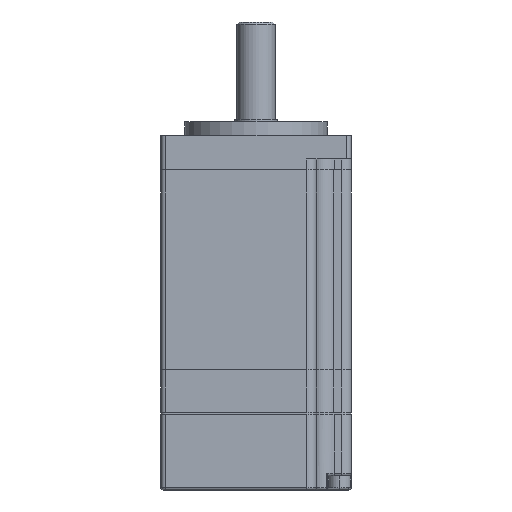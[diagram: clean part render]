
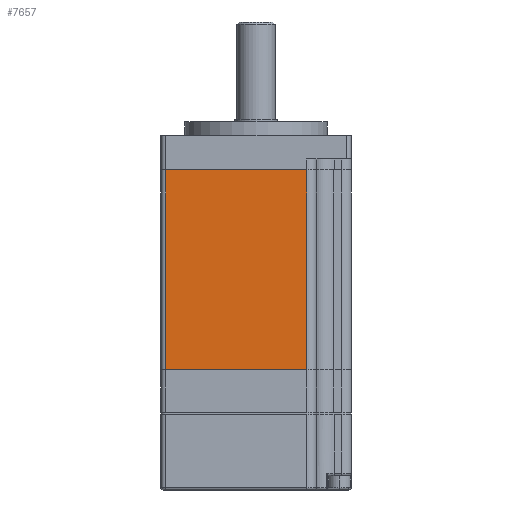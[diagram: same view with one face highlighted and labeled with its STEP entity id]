
A CAD part, front view. The second image highlights one B-rep face of the part: STEP entity #7657.
In plain terms, the highlighted planar face has unit normal (0, -1, 0).
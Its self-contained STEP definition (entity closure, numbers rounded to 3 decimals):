
#202 = LINE ( 'NONE', #4215, #10132 ) ;
#895 = CARTESIAN_POINT ( 'NONE',  ( -20., -20., 21. ) ) ;
#1635 = LINE ( 'NONE', #21537, #18096 ) ;
#2354 = LINE ( 'NONE', #3942, #8574 ) ;
#2664 = EDGE_CURVE ( 'NONE', #20545, #19498, #1635, .T. ) ;
#3280 = CARTESIAN_POINT ( 'NONE',  ( -19., -20., 21. ) ) ;
#3942 = CARTESIAN_POINT ( 'NONE',  ( 10.7, -20., -23. ) ) ;
#4186 = PLANE ( 'NONE',  #12001 ) ;
#4215 = CARTESIAN_POINT ( 'NONE',  ( -20., -20., -21. ) ) ;
#5296 = CARTESIAN_POINT ( 'NONE',  ( 10.7, -20., 21. ) ) ;
#5968 = ORIENTED_EDGE ( 'NONE', *, *, #13455, .F. ) ;
#6285 = DIRECTION ( 'NONE',  ( 0., -1., 0. ) ) ;
#7426 = EDGE_CURVE ( 'NONE', #10420, #19498, #202, .T. ) ;
#7657 = ADVANCED_FACE ( 'NONE', ( #21629 ), #4186, .T. ) ;
#7740 = DIRECTION ( 'NONE',  ( 0., 0., -1. ) ) ;
#8519 = CARTESIAN_POINT ( 'NONE',  ( -20., -20., -23. ) ) ;
#8574 = VECTOR ( 'NONE', #23677, 1000. ) ;
#8616 = VECTOR ( 'NONE', #19026, 1000. ) ;
#8846 = CARTESIAN_POINT ( 'NONE',  ( -19., -20., -21. ) ) ;
#10132 = VECTOR ( 'NONE', #16033, 1000. ) ;
#10420 = VERTEX_POINT ( 'NONE', #23111 ) ;
#11842 = VERTEX_POINT ( 'NONE', #5296 ) ;
#12001 = AXIS2_PLACEMENT_3D ( 'NONE', #8519, #6285, #16188 ) ;
#12205 = ORIENTED_EDGE ( 'NONE', *, *, #2664, .T. ) ;
#13455 = EDGE_CURVE ( 'NONE', #20545, #11842, #15777, .T. ) ;
#14421 = EDGE_CURVE ( 'NONE', #10420, #11842, #2354, .T. ) ;
#15009 = ORIENTED_EDGE ( 'NONE', *, *, #14421, .T. ) ;
#15777 = LINE ( 'NONE', #895, #8616 ) ;
#16033 = DIRECTION ( 'NONE',  ( -1., 0., 0. ) ) ;
#16188 = DIRECTION ( 'NONE',  ( 0., 0., -1. ) ) ;
#18096 = VECTOR ( 'NONE', #7740, 1000. ) ;
#19026 = DIRECTION ( 'NONE',  ( 1., 0., 0. ) ) ;
#19498 = VERTEX_POINT ( 'NONE', #8846 ) ;
#20545 = VERTEX_POINT ( 'NONE', #3280 ) ;
#21537 = CARTESIAN_POINT ( 'NONE',  ( -19., -20., -23. ) ) ;
#21629 = FACE_OUTER_BOUND ( 'NONE', #23981, .T. ) ;
#22625 = ORIENTED_EDGE ( 'NONE', *, *, #7426, .F. ) ;
#23111 = CARTESIAN_POINT ( 'NONE',  ( 10.7, -20., -21. ) ) ;
#23677 = DIRECTION ( 'NONE',  ( 0., 0., 1. ) ) ;
#23981 = EDGE_LOOP ( 'NONE', ( #5968, #12205, #22625, #15009 ) ) ;
